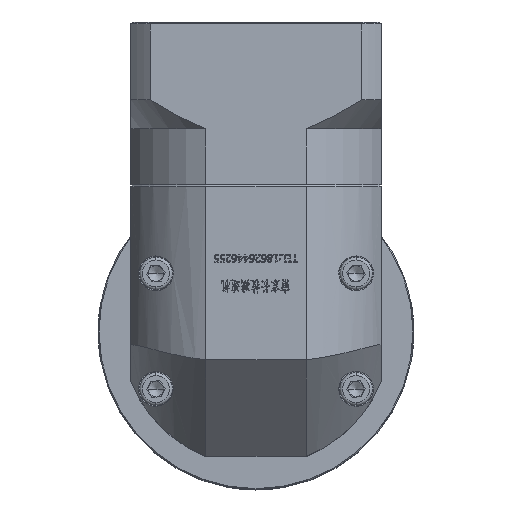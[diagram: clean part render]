
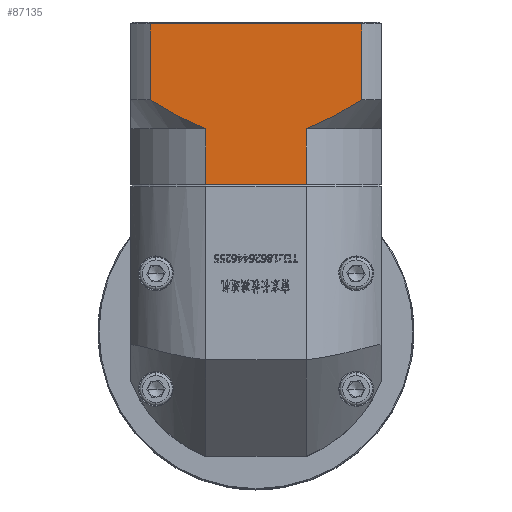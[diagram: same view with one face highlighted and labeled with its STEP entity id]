
A CAD part, top view. The second image highlights one B-rep face of the part: STEP entity #87135.
In plain terms, the highlighted planar face has unit normal (0, 0, 1).
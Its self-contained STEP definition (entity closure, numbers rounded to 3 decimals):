
#250 = LINE ( 'NONE', #138818, #172727 ) ;
#3724 = EDGE_CURVE ( 'NONE', #126686, #63743, #112446, .T. ) ;
#3892 = VECTOR ( 'NONE', #122339, 1000. ) ;
#4202 = VECTOR ( 'NONE', #146772, 1000. ) ;
#8059 = CARTESIAN_POINT ( 'NONE',  ( -10.791, -20.554, 65.735 ) ) ;
#9136 = DIRECTION ( 'NONE',  ( 0., -1., 0. ) ) ;
#14123 = VERTEX_POINT ( 'NONE', #58093 ) ;
#21494 = ORIENTED_EDGE ( 'NONE', *, *, #38578, .T. ) ;
#21598 = CARTESIAN_POINT ( 'NONE',  ( -24.545, -27.816, 65.735 ) ) ;
#32667 = CARTESIAN_POINT ( 'NONE',  ( -70.677, -42.554, 65.735 ) ) ;
#35448 = DIRECTION ( 'NONE',  ( -1., 0., 0. ) ) ;
#37846 = CARTESIAN_POINT ( 'NONE',  ( -25.187, -28.054, 65.735 ) ) ;
#38578 = EDGE_CURVE ( 'NONE', #38620, #103110, #41872, .T. ) ;
#38620 = VERTEX_POINT ( 'NONE', #90684 ) ;
#41847 = B_SPLINE_CURVE_WITH_KNOTS ( 'NONE', 3,
 ( #120391, #21598, #50078, #148804, #64242, #163041, #78491, #177321, #92652, #8059 ),
 .UNSPECIFIED., .F., .F.,
 ( 4, 2, 2, 2, 4 ),
 ( 0.101, 0.103, 0.105, 0.109, 0.117 ),
 .UNSPECIFIED. ) ;
#41872 = LINE ( 'NONE', #32667, #74996 ) ;
#41885 = DIRECTION ( 'NONE',  ( 0., 1., 0. ) ) ;
#42110 = ORIENTED_EDGE ( 'NONE', *, *, #139006, .F. ) ;
#46540 = LINE ( 'NONE', #49688, #154729 ) ;
#48069 = CARTESIAN_POINT ( 'NONE',  ( -65.563, -28.054, 65.735 ) ) ;
#49688 = CARTESIAN_POINT ( 'NONE',  ( -70.677, -0.854, 65.735 ) ) ;
#50078 = CARTESIAN_POINT ( 'NONE',  ( -23.906, -27.564, 65.735 ) ) ;
#56119 = CARTESIAN_POINT ( 'NONE',  ( -63.274, -22.003, 65.735 ) ) ;
#58093 = CARTESIAN_POINT ( 'NONE',  ( -25.187, -28.054, 65.735 ) ) ;
#61103 = DIRECTION ( 'NONE',  ( 0., 0., -1. ) ) ;
#63743 = VERTEX_POINT ( 'NONE', #131484 ) ;
#64242 = CARTESIAN_POINT ( 'NONE',  ( -22.02, -26.764, 65.735 ) ) ;
#65351 = CARTESIAN_POINT ( 'NONE',  ( -10.791, -28.054, 65.735 ) ) ;
#68678 = EDGE_CURVE ( 'NONE', #14123, #148758, #41847, .T. ) ;
#70318 = CARTESIAN_POINT ( 'NONE',  ( -59.753, -24.058, 65.735 ) ) ;
#74600 = LINE ( 'NONE', #37846, #3892 ) ;
#74996 = VECTOR ( 'NONE', #160460, 1000. ) ;
#78491 = CARTESIAN_POINT ( 'NONE',  ( -18.954, -25.309, 65.735 ) ) ;
#84534 = CARTESIAN_POINT ( 'NONE',  ( -53.706, -27.112, 65.735 ) ) ;
#86045 = CARTESIAN_POINT ( 'NONE',  ( -10.791, -20.554, 65.735 ) ) ;
#87043 = CARTESIAN_POINT ( 'NONE',  ( -10.791, -0.854, 65.735 ) ) ;
#87135 = ADVANCED_FACE ( 'NONE', ( #175948 ), #88917, .F. ) ;
#88917 = PLANE ( 'NONE',  #159228 ) ;
#90684 = CARTESIAN_POINT ( 'NONE',  ( -51.167, -42.554, 65.735 ) ) ;
#91582 = EDGE_CURVE ( 'NONE', #178753, #63743, #46540, .T. ) ;
#92652 = CARTESIAN_POINT ( 'NONE',  ( -13.059, -22.016, 65.735 ) ) ;
#94098 = LINE ( 'NONE', #65351, #169247 ) ;
#95754 = CARTESIAN_POINT ( 'NONE',  ( -25.187, -42.554, 65.735 ) ) ;
#96690 = B_SPLINE_CURVE_WITH_KNOTS ( 'NONE', 3,
 ( #182839, #126429, #56119, #154912, #70318, #169154, #84534, #183461 ),
 .UNSPECIFIED., .F., .F.,
 ( 4, 2, 2, 4 ),
 ( 0.058, 0.062, 0.066, 0.074 ),
 .UNSPECIFIED. ) ;
#97656 = ORIENTED_EDGE ( 'NONE', *, *, #3724, .F. ) ;
#102318 = ORIENTED_EDGE ( 'NONE', *, *, #176496, .T. ) ;
#103110 = VERTEX_POINT ( 'NONE', #95754 ) ;
#104936 = EDGE_CURVE ( 'NONE', #38620, #176460, #250, .T. ) ;
#109703 = ORIENTED_EDGE ( 'NONE', *, *, #91582, .T. ) ;
#112446 = LINE ( 'NONE', #48069, #4202 ) ;
#120391 = CARTESIAN_POINT ( 'NONE',  ( -25.187, -28.054, 65.735 ) ) ;
#121127 = ORIENTED_EDGE ( 'NONE', *, *, #68678, .T. ) ;
#122339 = DIRECTION ( 'NONE',  ( 0., -1., 0. ) ) ;
#124065 = ORIENTED_EDGE ( 'NONE', *, *, #124570, .F. ) ;
#124570 = EDGE_CURVE ( 'NONE', #14123, #103110, #74600, .T. ) ;
#126429 = CARTESIAN_POINT ( 'NONE',  ( -64.425, -21.288, 65.735 ) ) ;
#126686 = VERTEX_POINT ( 'NONE', #181817 ) ;
#131484 = CARTESIAN_POINT ( 'NONE',  ( -65.563, -0.854, 65.735 ) ) ;
#135883 = ORIENTED_EDGE ( 'NONE', *, *, #104936, .F. ) ;
#138818 = CARTESIAN_POINT ( 'NONE',  ( -51.167, -28.054, 65.735 ) ) ;
#139006 = EDGE_CURVE ( 'NONE', #178753, #148758, #94098, .T. ) ;
#145697 = CARTESIAN_POINT ( 'NONE',  ( -70.677, -0.354, 65.735 ) ) ;
#146772 = DIRECTION ( 'NONE',  ( 0., 1., 0. ) ) ;
#148758 = VERTEX_POINT ( 'NONE', #86045 ) ;
#148804 = CARTESIAN_POINT ( 'NONE',  ( -22.644, -27.038, 65.735 ) ) ;
#154729 = VECTOR ( 'NONE', #35448, 1000. ) ;
#154912 = CARTESIAN_POINT ( 'NONE',  ( -60.939, -23.387, 65.735 ) ) ;
#155599 = EDGE_LOOP ( 'NONE', ( #42110, #109703, #97656, #102318, #135883, #21494, #124065, #121127 ) ) ;
#159228 = AXIS2_PLACEMENT_3D ( 'NONE', #145697, #61103, #159922 ) ;
#159922 = DIRECTION ( 'NONE',  ( 0., 1., 0. ) ) ;
#160460 = DIRECTION ( 'NONE',  ( 1., 0., 0. ) ) ;
#163041 = CARTESIAN_POINT ( 'NONE',  ( -20.166, -25.914, 65.735 ) ) ;
#168544 = CARTESIAN_POINT ( 'NONE',  ( -51.167, -28.054, 65.735 ) ) ;
#169154 = CARTESIAN_POINT ( 'NONE',  ( -56.157, -25.968, 65.735 ) ) ;
#169247 = VECTOR ( 'NONE', #9136, 1000. ) ;
#172727 = VECTOR ( 'NONE', #41885, 1000. ) ;
#175948 = FACE_OUTER_BOUND ( 'NONE', #155599, .T. ) ;
#176460 = VERTEX_POINT ( 'NONE', #168544 ) ;
#176496 = EDGE_CURVE ( 'NONE', #126686, #176460, #96690, .T. ) ;
#177321 = CARTESIAN_POINT ( 'NONE',  ( -15.373, -23.404, 65.735 ) ) ;
#178753 = VERTEX_POINT ( 'NONE', #87043 ) ;
#181817 = CARTESIAN_POINT ( 'NONE',  ( -65.563, -20.554, 65.735 ) ) ;
#182839 = CARTESIAN_POINT ( 'NONE',  ( -65.563, -20.554, 65.735 ) ) ;
#183461 = CARTESIAN_POINT ( 'NONE',  ( -51.167, -28.054, 65.735 ) ) ;
